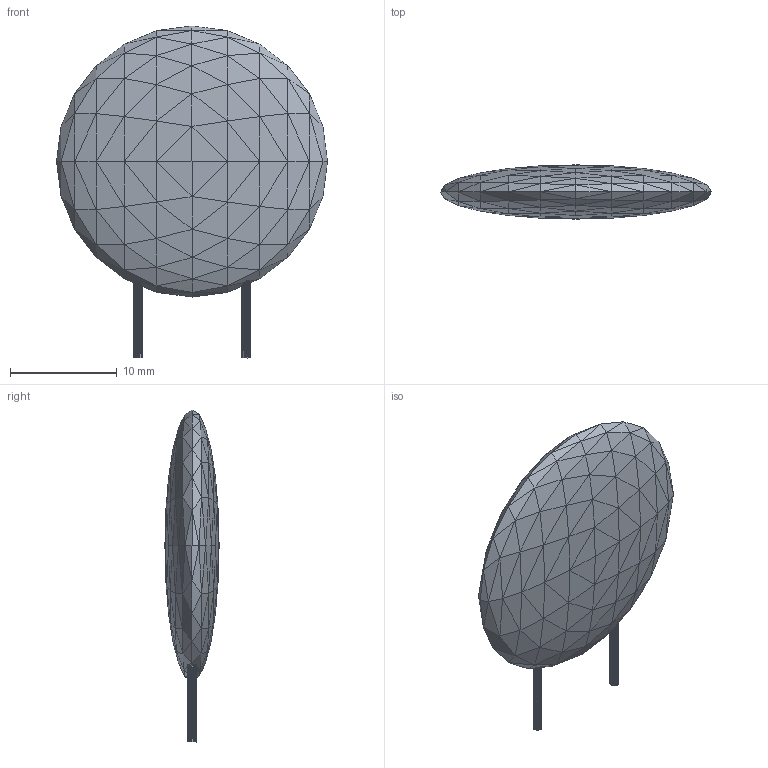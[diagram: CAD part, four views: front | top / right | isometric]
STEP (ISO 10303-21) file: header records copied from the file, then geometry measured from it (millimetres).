
FILE_DESCRIPTION(('HOOPS Exchange Step'),'2;1');
FILE_NAME('***.stp');
FILE_SCHEMA( ('AP242_MANAGED_MODEL_BASED_3D_ENGINEERING_MIM_LF {1 0 10303 442 1 1 4 }') );
Length unit declared in the file: inch
Products named in the file (4): CAPXXLPF_2; CAPXXLPF_3; CAPXXLPF_4; CAPXXLPF
Assembly tree (3 placements, depth 2):
  CAPXXLPF
    CAPXXLPF_2
    CAPXXLPF_3
    CAPXXLPF_4
Bounding box: 25.4 x 5.08 x 31.12 mm (x, y, z)
Volume: 1655 mm3; surface area: 1126.2 mm2
Topology: 3 solids, 3 shells, 480 faces, 720 edges, 246 vertices
Faces by surface type: plane 480
Entity records: 9540 total; most frequent: DIRECTION 1696, CARTESIAN_POINT 1454, ORIENTED_EDGE 1440, VECTOR 720, LINE 720, EDGE_CURVE 720, AXIS2_PLACEMENT_3D 488, PLANE 480
